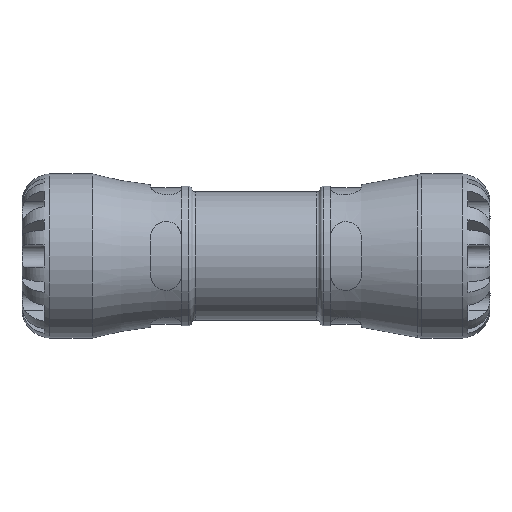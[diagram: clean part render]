
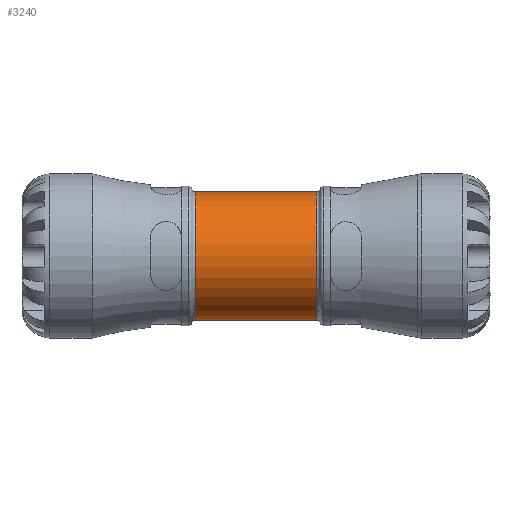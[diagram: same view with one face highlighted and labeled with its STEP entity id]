
A CAD part, front view. The second image highlights one B-rep face of the part: STEP entity #3240.
In plain terms, the highlighted cylindrical face has radius 18.33 mm (diameter 36.66 mm), a full revolution.
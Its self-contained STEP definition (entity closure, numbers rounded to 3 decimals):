
#467=FACE_BOUND('',#784,.T.);
#468=FACE_BOUND('',#785,.T.);
#510=CYLINDRICAL_SURFACE('',#3445,18.33);
#580=FACE_OUTER_BOUND('',#783,.T.);
#783=EDGE_LOOP('',(#2108));
#784=EDGE_LOOP('',(#2109));
#785=EDGE_LOOP('',(#2110));
#1026=B_SPLINE_CURVE_WITH_KNOTS('',3,(#4844,#4845,#4846,#4847,#4848,#4849,
#4850,#4851,#4852,#4853,#4854,#4855,#4856,#4857,#4858,#4859,#4860,#4861),
 .UNSPECIFIED.,.T.,.F.,(4,1,1,1,1,1,1,1,1,1,1,1,1,1,1,4),(-5.734,
-5.324,-4.915,-4.505,-4.095,
-3.686,-3.276,-3.003,-2.73,
-2.457,-1.911,-1.638,-1.229,
-0.819,-0.41,0.),.UNSPECIFIED.);
#1158=CIRCLE('',#3446,18.33);
#1159=CIRCLE('',#3447,18.33);
#1331=VERTEX_POINT('',#4823);
#1334=VERTEX_POINT('',#4866);
#1335=VERTEX_POINT('',#4868);
#1638=EDGE_CURVE('',#1331,#1331,#1026,.T.);
#1640=EDGE_CURVE('',#1334,#1334,#1158,.T.);
#1641=EDGE_CURVE('',#1335,#1335,#1159,.T.);
#2108=ORIENTED_EDGE('',*,*,#1640,.F.);
#2109=ORIENTED_EDGE('',*,*,#1641,.F.);
#2110=ORIENTED_EDGE('',*,*,#1638,.F.);
#3240=ADVANCED_FACE('',(#580,#467,#468),#510,.T.);
#3445=AXIS2_PLACEMENT_3D('',#4865,#3826,#3827);
#3446=AXIS2_PLACEMENT_3D('',#4867,#3828,#3829);
#3447=AXIS2_PLACEMENT_3D('',#4869,#3830,#3831);
#3826=DIRECTION('center_axis',(1.,0.,0.));
#3827=DIRECTION('ref_axis',(0.,1.,0.));
#3828=DIRECTION('center_axis',(1.,0.,0.));
#3829=DIRECTION('ref_axis',(0.,1.,0.));
#3830=DIRECTION('center_axis',(-1.,0.,0.));
#3831=DIRECTION('ref_axis',(0.,1.,0.));
#4823=CARTESIAN_POINT('',(0.,15.265,-10.147));
#4844=CARTESIAN_POINT('Ctrl Pts',(0.,15.262,-10.149));
#4845=CARTESIAN_POINT('Ctrl Pts',(-1.702,15.262,-10.149));
#4846=CARTESIAN_POINT('Ctrl Pts',(-5.108,15.786,-9.407));
#4847=CARTESIAN_POINT('Ctrl Pts',(-8.974,17.251,-6.578));
#4848=CARTESIAN_POINT('Ctrl Pts',(-11.272,18.372,-2.414));
#4849=CARTESIAN_POINT('Ctrl Pts',(-11.269,18.374,2.415));
#4850=CARTESIAN_POINT('Ctrl Pts',(-8.982,17.248,6.577));
#4851=CARTESIAN_POINT('Ctrl Pts',(-5.524,15.953,9.091));
#4852=CARTESIAN_POINT('Ctrl Pts',(-1.74,15.241,10.186));
#4853=CARTESIAN_POINT('Ctrl Pts',(1.741,15.239,10.186));
#4854=CARTESIAN_POINT('Ctrl Pts',(6.062,16.059,8.937));
#4855=CARTESIAN_POINT('Ctrl Pts',(9.357,17.439,6.16));
#4856=CARTESIAN_POINT('Ctrl Pts',(11.271,18.372,1.875));
#4857=CARTESIAN_POINT('Ctrl Pts',(11.271,18.373,-2.413));
#4858=CARTESIAN_POINT('Ctrl Pts',(8.975,17.25,-6.579));
#4859=CARTESIAN_POINT('Ctrl Pts',(5.107,15.786,-9.407));
#4860=CARTESIAN_POINT('Ctrl Pts',(1.703,15.262,-10.149));
#4861=CARTESIAN_POINT('Ctrl Pts',(0.,15.262,-10.149));
#4865=CARTESIAN_POINT('Origin',(9.165,0.,0.));
#4866=CARTESIAN_POINT('',(17.405,-18.33,0.));
#4867=CARTESIAN_POINT('Origin',(17.405,0.,0.));
#4868=CARTESIAN_POINT('',(-17.405,-18.33,0.));
#4869=CARTESIAN_POINT('Origin',(-17.405,0.,0.));
